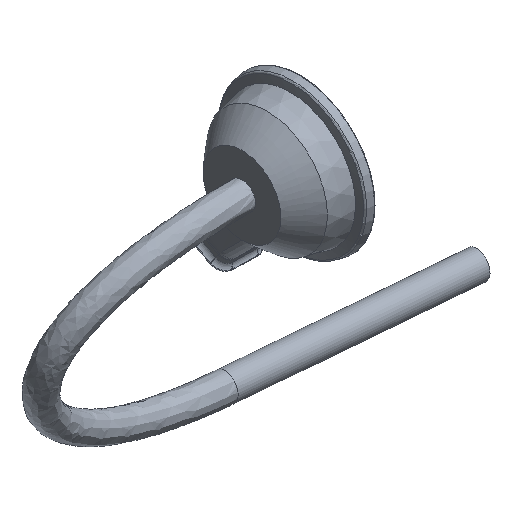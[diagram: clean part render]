
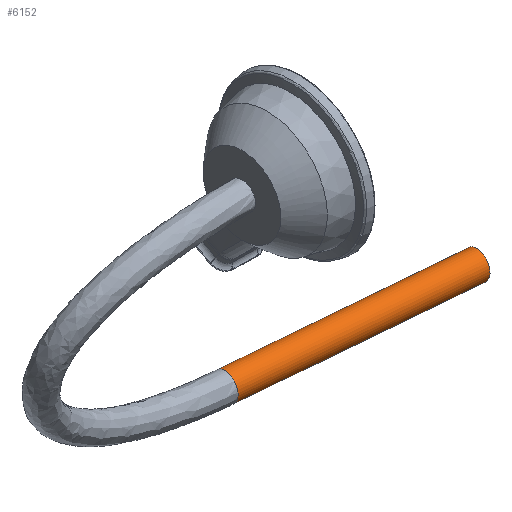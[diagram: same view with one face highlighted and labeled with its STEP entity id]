
A CAD part, isometric view. The second image highlights one B-rep face of the part: STEP entity #6152.
In plain terms, the highlighted cylindrical face has radius 22.5 mm (diameter 45 mm), a full revolution.
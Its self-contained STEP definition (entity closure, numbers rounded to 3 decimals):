
#303 = EDGE_CURVE ( 'NONE', #3300, #3300, #3198, .T. ) ;
#368 = ORIENTED_EDGE ( 'NONE', *, *, #6244, .T. ) ;
#398 = CARTESIAN_POINT ( 'NONE',  ( 393.669, 94.938, 1652.529 ) ) ;
#747 = DIRECTION ( 'NONE',  ( -0.06, -0.689, 0.723 ) ) ;
#1122 = CYLINDRICAL_SURFACE ( 'NONE', #2088, 22.5 ) ;
#1416 = AXIS2_PLACEMENT_3D ( 'NONE', #6353, #3180, #3757 ) ;
#1456 = EDGE_LOOP ( 'NONE', ( #368 ) ) ;
#1521 = CARTESIAN_POINT ( 'NONE',  ( 782.028, 76.573, 1636.269 ) ) ;
#1566 = DIRECTION ( 'NONE',  ( -0.996, 0.087, 0. ) ) ;
#1743 = EDGE_LOOP ( 'NONE', ( #5554 ) ) ;
#2088 = AXIS2_PLACEMENT_3D ( 'NONE', #1521, #1566, #2200 ) ;
#2200 = DIRECTION ( 'NONE',  ( -0.087, -0.996, 0. ) ) ;
#2810 = FACE_OUTER_BOUND ( 'NONE', #1743, .T. ) ;
#3180 = DIRECTION ( 'NONE',  ( 0.996, -0.087, 0. ) ) ;
#3198 = CIRCLE ( 'NONE', #1416, 22.5 ) ;
#3300 = VERTEX_POINT ( 'NONE', #3335 ) ;
#3335 = CARTESIAN_POINT ( 'NONE',  ( 780.673, 61.08, 1652.529 ) ) ;
#3526 = VERTEX_POINT ( 'NONE', #398 ) ;
#3757 = DIRECTION ( 'NONE',  ( -0.06, -0.689, 0.723 ) ) ;
#3916 = FACE_OUTER_BOUND ( 'NONE', #1456, .T. ) ;
#4843 = CARTESIAN_POINT ( 'NONE',  ( 395.025, 110.431, 1636.269 ) ) ;
#5380 = DIRECTION ( 'NONE',  ( 0.996, -0.087, 0. ) ) ;
#5554 = ORIENTED_EDGE ( 'NONE', *, *, #303, .F. ) ;
#5992 = CIRCLE ( 'NONE', #6657, 22.5 ) ;
#6152 = ADVANCED_FACE ( 'NONE', ( #3916, #2810 ), #1122, .T. ) ;
#6244 = EDGE_CURVE ( 'NONE', #3526, #3526, #5992, .T. ) ;
#6353 = CARTESIAN_POINT ( 'NONE',  ( 782.028, 76.573, 1636.269 ) ) ;
#6657 = AXIS2_PLACEMENT_3D ( 'NONE', #4843, #5380, #747 ) ;
